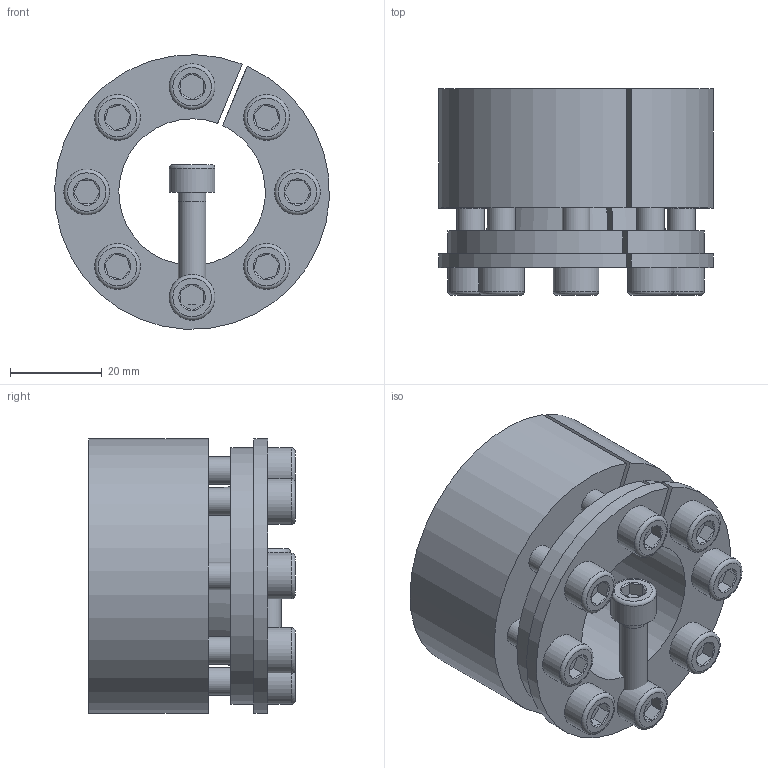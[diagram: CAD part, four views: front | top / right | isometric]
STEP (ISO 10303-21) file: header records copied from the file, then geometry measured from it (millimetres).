
FILE_DESCRIPTION( ( 'Unknown' ), '1' );
FILE_NAME( 'C:/Dokumente und Einstellungen/Sven/Desktop/homepage/cad - homepage/KBS70/KBS 70 - 32 x 60.stp', 'Unknown', ( 'Unknown' ), ( 'Unknown' ), 'XStep 1.0', 'Unknown', ' ' );
FILE_SCHEMA( ( 'automotive_design' ) );
Length unit declared in the file: millimetre
Products named in the file (3): Assem1; KBS 70 - 32 x 60; ISO EN DIN 4762 M6x25
Bounding box: 59.93 x 45 x 59.96 mm (x, y, z)
Volume: 130568.4 mm3; surface area: 54429.3 mm2
Topology: 11 solids, 11 shells, 285 faces, 583 edges, 356 vertices
Faces by surface type: plane 124, cylinder 76, cone 67, torus 18
Full cylindrical faces by diameter (mm): 5 x9, 6 x50, 10 x9
Entity records: 1882 total; most frequent: CARTESIAN_POINT 305, DIRECTION 284, ORIENTED_EDGE 206, AXIS2_PLACEMENT_3D 126, EDGE_LOOP 114, EDGE_CURVE 103, VERTEX_POINT 79, FACE_OUTER_BOUND 77
